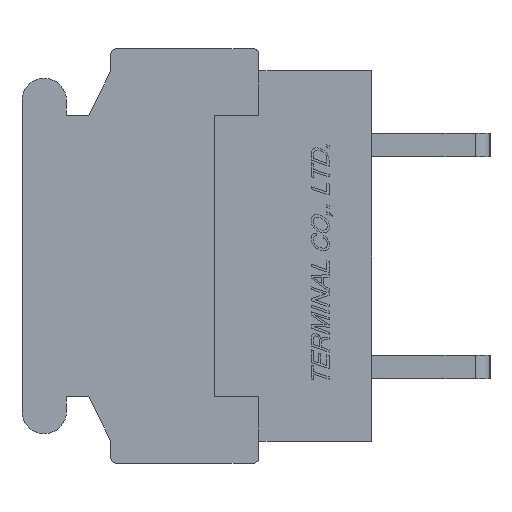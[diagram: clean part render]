
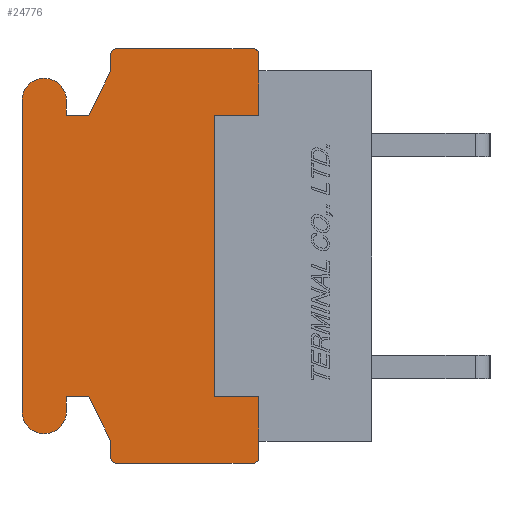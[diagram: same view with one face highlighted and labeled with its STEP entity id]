
A CAD part, left-side view. The second image highlights one B-rep face of the part: STEP entity #24776.
In plain terms, the highlighted planar face has unit normal (-1, 0, 0).
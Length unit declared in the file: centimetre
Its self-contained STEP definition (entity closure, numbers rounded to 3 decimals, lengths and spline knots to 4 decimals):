
#425=CIRCLE('',#41951,0.02);
#426=CIRCLE('',#41952,0.02);
#427=CIRCLE('',#41953,0.075);
#428=CIRCLE('',#41954,0.075);
#429=CIRCLE('',#41955,0.02);
#430=CIRCLE('',#41956,0.02);
#1677=VERTEX_POINT('',#34064);
#1678=VERTEX_POINT('',#34066);
#1679=VERTEX_POINT('',#34070);
#1680=VERTEX_POINT('',#34072);
#1681=VERTEX_POINT('',#34076);
#1682=VERTEX_POINT('',#34080);
#1683=VERTEX_POINT('',#34086);
#1684=VERTEX_POINT('',#34088);
#1685=VERTEX_POINT('',#34090);
#1686=VERTEX_POINT('',#34092);
#1687=VERTEX_POINT('',#34094);
#1688=VERTEX_POINT('',#34096);
#1689=VERTEX_POINT('',#34098);
#1690=VERTEX_POINT('',#34100);
#1691=VERTEX_POINT('',#34102);
#1692=VERTEX_POINT('',#34104);
#1693=VERTEX_POINT('',#34106);
#1694=VERTEX_POINT('',#34108);
#1695=VERTEX_POINT('',#34110);
#1696=VERTEX_POINT('',#34112);
#1697=VERTEX_POINT('',#34114);
#1698=VERTEX_POINT('',#34116);
#1699=VERTEX_POINT('',#34118);
#1700=VERTEX_POINT('',#34120);
#4325=VECTOR('',#27591,1.);
#4328=VECTOR('',#27595,1.);
#4331=VECTOR('',#27599,1.);
#4333=VECTOR('',#27602,1.);
#4334=VECTOR('',#27604,1.);
#4335=VECTOR('',#27606,1.);
#4336=VECTOR('',#27609,1.);
#4337=VECTOR('',#27612,1.);
#4338=VECTOR('',#27613,1.);
#4339=VECTOR('',#27614,1.);
#4340=VECTOR('',#27615,1.);
#4341=VECTOR('',#27618,1.);
#4342=VECTOR('',#27621,1.);
#4343=VECTOR('',#27622,1.);
#4344=VECTOR('',#27623,1.);
#4345=VECTOR('',#27624,1.);
#4346=VECTOR('',#27627,1.);
#4347=VECTOR('',#27630,1.);
#7197=LINE('',#34065,#4325);
#7200=LINE('',#34071,#4328);
#7203=LINE('',#34077,#4331);
#7205=LINE('',#34081,#4333);
#7206=LINE('',#34083,#4334);
#7207=LINE('',#34085,#4335);
#7208=LINE('',#34089,#4336);
#7209=LINE('',#34093,#4337);
#7210=LINE('',#34095,#4338);
#7211=LINE('',#34097,#4339);
#7212=LINE('',#34099,#4340);
#7213=LINE('',#34103,#4341);
#7214=LINE('',#34107,#4342);
#7215=LINE('',#34109,#4343);
#7216=LINE('',#34111,#4344);
#7217=LINE('',#34113,#4345);
#7218=LINE('',#34117,#4346);
#7219=LINE('',#34121,#4347);
#10173=EDGE_CURVE('',#1678,#1677,#7197,.T.);
#10176=EDGE_CURVE('',#1680,#1679,#7200,.T.);
#10179=EDGE_CURVE('',#1679,#1681,#7203,.T.);
#10181=EDGE_CURVE('',#1681,#1682,#7205,.T.);
#10182=EDGE_CURVE('',#1682,#1678,#7206,.T.);
#10183=EDGE_CURVE('',#1683,#1677,#7207,.T.);
#10184=EDGE_CURVE('',#1684,#1683,#425,.T.);
#10185=EDGE_CURVE('',#1685,#1684,#7208,.T.);
#10186=EDGE_CURVE('',#1686,#1685,#426,.T.);
#10187=EDGE_CURVE('',#1687,#1686,#7209,.T.);
#10188=EDGE_CURVE('',#1688,#1687,#7210,.T.);
#10189=EDGE_CURVE('',#1689,#1688,#7211,.T.);
#10190=EDGE_CURVE('',#1690,#1689,#7212,.T.);
#10191=EDGE_CURVE('',#1691,#1690,#427,.T.);
#10192=EDGE_CURVE('',#1692,#1691,#7213,.T.);
#10193=EDGE_CURVE('',#1693,#1692,#428,.T.);
#10194=EDGE_CURVE('',#1694,#1693,#7214,.T.);
#10195=EDGE_CURVE('',#1695,#1694,#7215,.T.);
#10196=EDGE_CURVE('',#1696,#1695,#7216,.T.);
#10197=EDGE_CURVE('',#1697,#1696,#7217,.T.);
#10198=EDGE_CURVE('',#1698,#1697,#429,.T.);
#10199=EDGE_CURVE('',#1699,#1698,#7218,.T.);
#10200=EDGE_CURVE('',#1700,#1699,#430,.T.);
#10201=EDGE_CURVE('',#1680,#1700,#7219,.T.);
#14601=ORIENTED_EDGE('',*,*,#10176,.T.);
#14602=ORIENTED_EDGE('',*,*,#10179,.T.);
#14603=ORIENTED_EDGE('',*,*,#10181,.T.);
#14604=ORIENTED_EDGE('',*,*,#10182,.T.);
#14605=ORIENTED_EDGE('',*,*,#10173,.T.);
#14606=ORIENTED_EDGE('',*,*,#10183,.F.);
#14607=ORIENTED_EDGE('',*,*,#10184,.F.);
#14608=ORIENTED_EDGE('',*,*,#10185,.F.);
#14609=ORIENTED_EDGE('',*,*,#10186,.F.);
#14610=ORIENTED_EDGE('',*,*,#10187,.F.);
#14611=ORIENTED_EDGE('',*,*,#10188,.F.);
#14612=ORIENTED_EDGE('',*,*,#10189,.F.);
#14613=ORIENTED_EDGE('',*,*,#10190,.F.);
#14614=ORIENTED_EDGE('',*,*,#10191,.F.);
#14615=ORIENTED_EDGE('',*,*,#10192,.F.);
#14616=ORIENTED_EDGE('',*,*,#10193,.F.);
#14617=ORIENTED_EDGE('',*,*,#10194,.F.);
#14618=ORIENTED_EDGE('',*,*,#10195,.F.);
#14619=ORIENTED_EDGE('',*,*,#10196,.F.);
#14620=ORIENTED_EDGE('',*,*,#10197,.F.);
#14621=ORIENTED_EDGE('',*,*,#10198,.F.);
#14622=ORIENTED_EDGE('',*,*,#10199,.F.);
#14623=ORIENTED_EDGE('',*,*,#10200,.F.);
#14624=ORIENTED_EDGE('',*,*,#10201,.F.);
#21644=EDGE_LOOP('',(#14601,#14602,#14603,#14604,#14605,#14606,#14607,#14608,
#14609,#14610,#14611,#14612,#14613,#14614,#14615,#14616,#14617,#14618,#14619,
#14620,#14621,#14622,#14623,#14624));
#23220=FACE_BOUND('',#21644,.T.);
#24776=ADVANCED_FACE('',(#23220),#26175,.F.);
#26175=PLANE('',#41950);
#27591=DIRECTION('',(0.,0.,1.));
#27595=DIRECTION('',(0.,0.,1.));
#27599=DIRECTION('',(0.,1.,0.));
#27602=DIRECTION('',(0.,0.,1.));
#27604=DIRECTION('',(0.,-1.,0.));
#27605=DIRECTION('',(1.,0.,0.));
#27606=DIRECTION('',(0.,0.,-1.));
#27607=DIRECTION('',(1.,0.,0.));
#27608=DIRECTION('',(0.,0.,-0.02));
#27609=DIRECTION('',(0.,-1.,0.));
#27610=DIRECTION('',(1.,0.,0.));
#27611=DIRECTION('',(0.,0.,-0.02));
#27612=DIRECTION('',(0.,0.,1.));
#27613=DIRECTION('',(0.,-0.447,0.894));
#27614=DIRECTION('',(0.,-1.,0.));
#27615=DIRECTION('',(0.,0.,-1.));
#27616=DIRECTION('',(1.,0.,0.));
#27617=DIRECTION('',(0.,0.,-0.075));
#27618=DIRECTION('',(0.,0.,1.));
#27619=DIRECTION('',(1.,0.,0.));
#27620=DIRECTION('',(0.,0.,-0.075));
#27621=DIRECTION('',(0.,0.,-1.));
#27622=DIRECTION('',(0.,1.,0.));
#27623=DIRECTION('',(0.,0.447,0.894));
#27624=DIRECTION('',(0.,0.,1.));
#27625=DIRECTION('',(1.,0.,0.));
#27626=DIRECTION('',(0.,0.,-0.02));
#27627=DIRECTION('',(0.,1.,0.));
#27628=DIRECTION('',(1.,0.,0.));
#27629=DIRECTION('',(0.,0.,-0.02));
#27630=DIRECTION('',(0.,0.,-1.));
#34064=CARTESIAN_POINT('',(-0.762,0.38,0.625));
#34065=CARTESIAN_POINT('',(-0.762,0.38,0.275));
#34066=CARTESIAN_POINT('',(-0.762,0.38,0.475));
#34070=CARTESIAN_POINT('',(-0.762,0.38,-0.475));
#34071=CARTESIAN_POINT('',(-0.762,0.38,-0.275));
#34072=CARTESIAN_POINT('',(-0.762,0.38,-0.625));
#34076=CARTESIAN_POINT('',(-0.762,0.53,-0.475));
#34077=CARTESIAN_POINT('',(-0.762,0.5304,-0.475));
#34080=CARTESIAN_POINT('',(-0.762,0.53,0.475));
#34081=CARTESIAN_POINT('',(-0.762,0.53,0.));
#34083=CARTESIAN_POINT('',(-0.762,0.5304,0.475));
#34084=CARTESIAN_POINT('',(-0.762,0.6059,0.));
#34085=CARTESIAN_POINT('',(-0.762,0.38,0.68));
#34086=CARTESIAN_POINT('',(-0.762,0.38,0.68));
#34087=CARTESIAN_POINT('',(-0.762,0.4,0.68));
#34088=CARTESIAN_POINT('',(-0.762,0.4,0.7));
#34089=CARTESIAN_POINT('',(-0.762,0.86,0.7));
#34090=CARTESIAN_POINT('',(-0.762,0.86,0.7));
#34091=CARTESIAN_POINT('',(-0.762,0.86,0.68));
#34092=CARTESIAN_POINT('',(-0.762,0.88,0.68));
#34093=CARTESIAN_POINT('',(-0.762,0.88,0.625));
#34094=CARTESIAN_POINT('',(-0.762,0.88,0.625));
#34095=CARTESIAN_POINT('',(-0.762,0.955,0.475));
#34096=CARTESIAN_POINT('',(-0.762,0.955,0.475));
#34097=CARTESIAN_POINT('',(-0.762,1.03,0.475));
#34098=CARTESIAN_POINT('',(-0.762,1.03,0.475));
#34099=CARTESIAN_POINT('',(-0.762,1.03,0.525));
#34100=CARTESIAN_POINT('',(-0.762,1.03,0.525));
#34101=CARTESIAN_POINT('',(-0.762,1.105,0.525));
#34102=CARTESIAN_POINT('',(-0.762,1.18,0.525));
#34103=CARTESIAN_POINT('',(-0.762,1.18,-0.525));
#34104=CARTESIAN_POINT('',(-0.762,1.18,-0.525));
#34105=CARTESIAN_POINT('',(-0.762,1.105,-0.525));
#34106=CARTESIAN_POINT('',(-0.762,1.03,-0.525));
#34107=CARTESIAN_POINT('',(-0.762,1.03,-0.475));
#34108=CARTESIAN_POINT('',(-0.762,1.03,-0.475));
#34109=CARTESIAN_POINT('',(-0.762,0.955,-0.475));
#34110=CARTESIAN_POINT('',(-0.762,0.955,-0.475));
#34111=CARTESIAN_POINT('',(-0.762,0.88,-0.625));
#34112=CARTESIAN_POINT('',(-0.762,0.88,-0.625));
#34113=CARTESIAN_POINT('',(-0.762,0.88,-0.68));
#34114=CARTESIAN_POINT('',(-0.762,0.88,-0.68));
#34115=CARTESIAN_POINT('',(-0.762,0.86,-0.68));
#34116=CARTESIAN_POINT('',(-0.762,0.86,-0.7));
#34117=CARTESIAN_POINT('',(-0.762,0.4,-0.7));
#34118=CARTESIAN_POINT('',(-0.762,0.4,-0.7));
#34119=CARTESIAN_POINT('',(-0.762,0.4,-0.68));
#34120=CARTESIAN_POINT('',(-0.762,0.38,-0.68));
#34121=CARTESIAN_POINT('',(-0.762,0.38,-0.625));
#41950=AXIS2_PLACEMENT_3D('',#34084,#27605,$);
#41951=AXIS2_PLACEMENT_3D('',#34087,#27607,#27608);
#41952=AXIS2_PLACEMENT_3D('',#34091,#27610,#27611);
#41953=AXIS2_PLACEMENT_3D('',#34101,#27616,#27617);
#41954=AXIS2_PLACEMENT_3D('',#34105,#27619,#27620);
#41955=AXIS2_PLACEMENT_3D('',#34115,#27625,#27626);
#41956=AXIS2_PLACEMENT_3D('',#34119,#27628,#27629);
